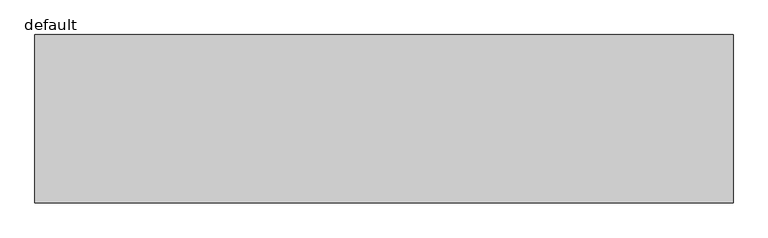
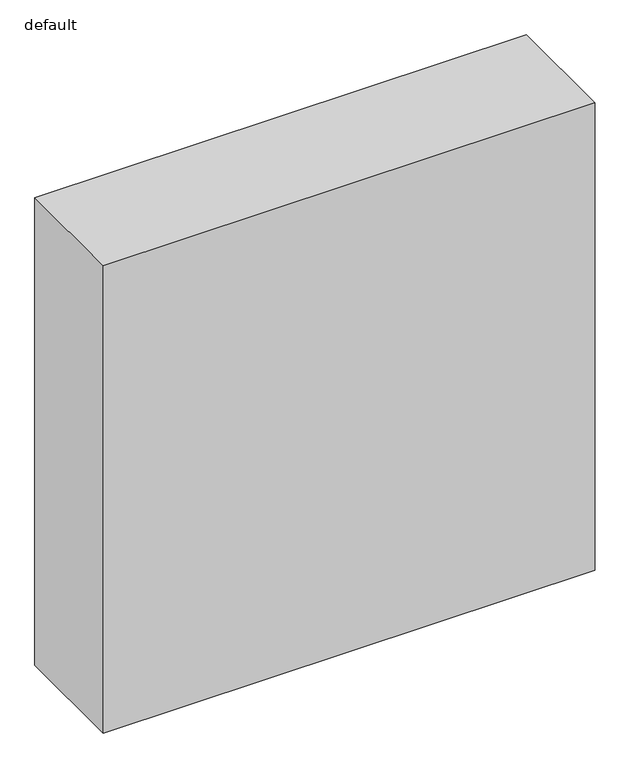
"""IFC4 building model written with IfcOpenShell, lengths in millimetres: furniture geometry, Fu_шкаф встроенный_LEG : default."""

from ifc_helpers import new_model, si_unit, origin, origin_with_axes, place, context, project, spatial, polyline, outline, extrude, source, transform, mapped, element, save


def default_733c536d(model_context):
    return source(origin(), model_context, "Body", "SweptSolid", [
        extrude(outline(polyline([(2490.0, 0.0), (2490.0, -600.0), (0.0, -600.0), (0.0, 0.0), (2490.0, 0.0)])), origin_with_axes(), (0.0, 0.0, 1.0), 2500.0),
    ])


if __name__ == "__main__":
    model = new_model("IFC4")
    model_context = context("Model", 3, world=origin())
    ifc_project = project(units=[si_unit("LENGTHUNIT", "METRE", prefix="MILLI")], contexts=[model_context])
    site = spatial("IfcSite", under=ifc_project)
    building = spatial("IfcBuilding", under=site)
    placement = place(None, origin())
    default_shape = default_733c536d(model_context)
    element("IfcFurniture", 1, ObjectType="Fu_шкаф встроенный_LEG : default", at=placement, inside=building, context=model_context, shape_type="MappedRepresentation", body=[
        mapped(default_shape, transform((0.0, 0.0, 0.0), x_axis=(1.0, 0.0, 0.0), y_axis=(0.0, 1.0, 0.0), z_axis=(0.0, 0.0, 1.0))),
    ])
    save(model, "model.ifc")
